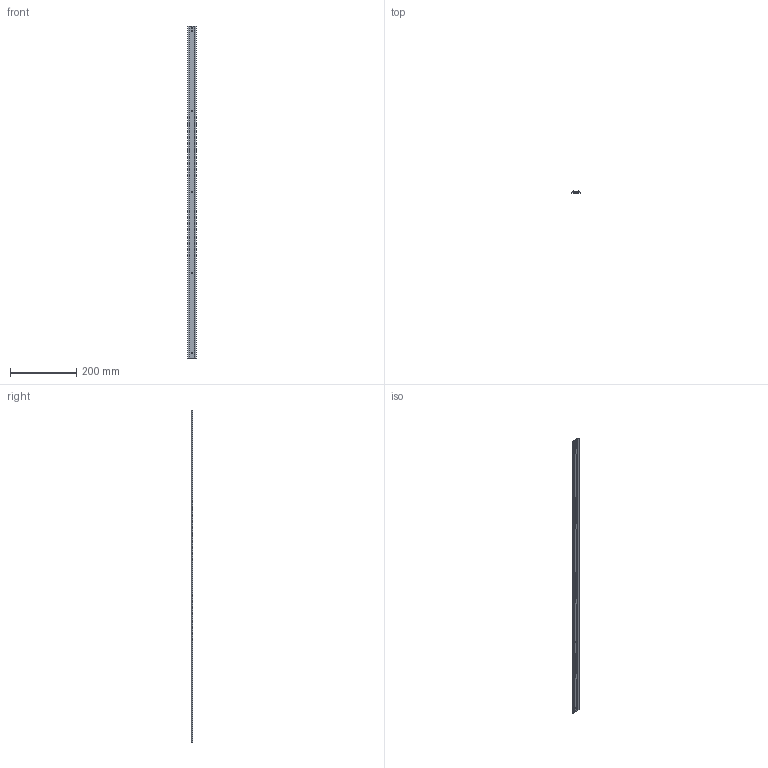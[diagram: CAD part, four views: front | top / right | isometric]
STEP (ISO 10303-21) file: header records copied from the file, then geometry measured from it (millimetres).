
FILE_DESCRIPTION (( 'STEP AP214' ), '1' );
FILE_NAME ('MN02435D02_00.STEP', '2025-02-10T06:58:08', ( '' ), ( '' ), 'SwSTEP 2.0', 'SolidWorks 2022', '' );
FILE_SCHEMA (( 'AUTOMOTIVE_DESIGN' ));
Length unit declared in the file: millimetre
Products named in the file (2): MN02401D01_TRS25_ekstrudirana_letev_ekstrudirana_letev; MN02435D02_00
Assembly tree (1 placements, depth 2):
  MN02435D02_00
    MN02401D01_TRS25_ekstrudirana_letev_ekstrudirana_letev
Bounding box: 25 x 4.5 x 1000 mm (x, y, z)
Volume: 73805 mm3; surface area: 62225.8 mm2
Topology: 1 solids, 1 shells, 116 faces, 342 edges, 228 vertices
Faces by surface type: cylinder 68, plane 48
Entity records: 4072 total; most frequent: CARTESIAN_POINT 910, ORIENTED_EDGE 684, DIRECTION 638, EDGE_CURVE 342, AXIS2_PLACEMENT_3D 236, VERTEX_POINT 228, VECTOR 166, LINE 166
